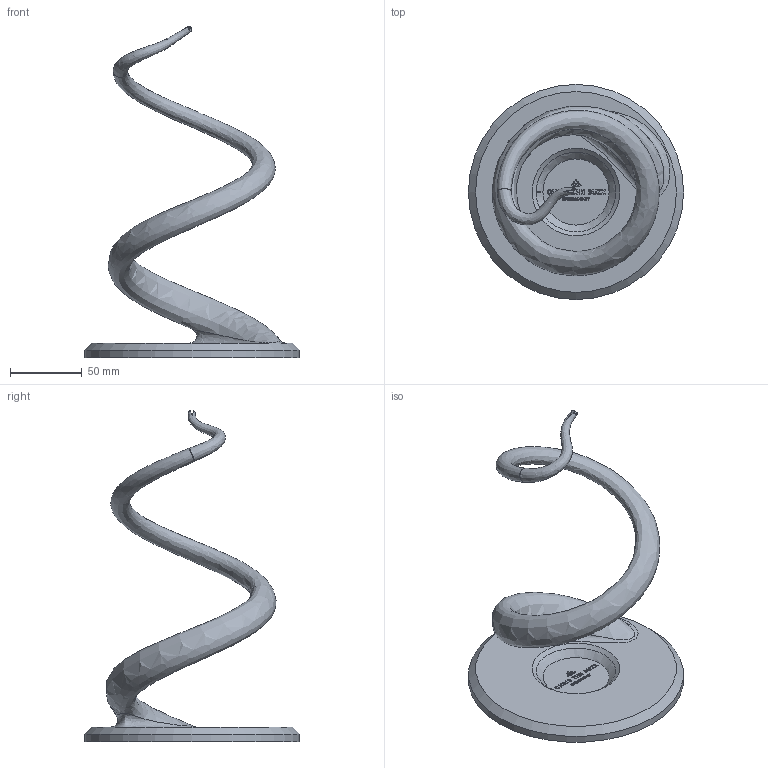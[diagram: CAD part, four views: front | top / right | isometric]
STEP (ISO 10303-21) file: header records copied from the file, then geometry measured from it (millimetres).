
FILE_DESCRIPTION(/* description */ (''),/* implementation_level */ '2;1');
FILE_NAME(/* name */ 'Base.step',/* time_stamp */ '2026-05-27T11:02:11+02:00',/* author */ (''),/* organization */ (''),/* preprocessor_version */ 'ST-DEVELOPER v20.1',/* originating_system */ 'Autodesk Translation Framework v15.8.0.0',/* authorisation */ '');
FILE_SCHEMA (('AUTOMOTIVE_DESIGN { 1 0 10303 214 3 1 1 }'));
Length unit declared in the file: millimetre
Products named in the file (1): Sling_Ashdrop
Bounding box: 150 x 150 x 230.89 mm (x, y, z)
Volume: 275774.6 mm3; surface area: 65665.2 mm2
Topology: 1 solids, 1 shells, 452 faces, 1237 edges, 821 vertices
Faces by surface type: plane 257, bspline 193, cone 1, cylinder 1
Full cylindrical faces by diameter (mm): 150 x1
Entity records: 16687 total; most frequent: CARTESIAN_POINT 7093, ORIENTED_EDGE 2466, DIRECTION 1362, EDGE_CURVE 1233, LINE 830, VECTOR 830, VERTEX_POINT 821, EDGE_LOOP 490
